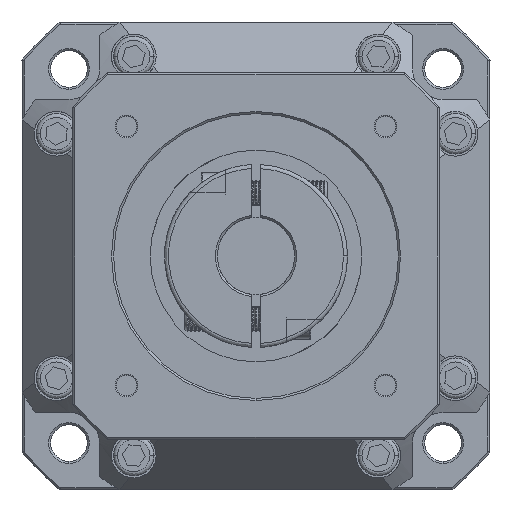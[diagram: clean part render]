
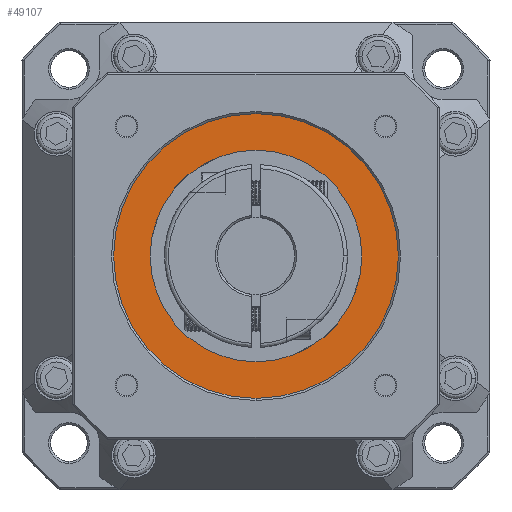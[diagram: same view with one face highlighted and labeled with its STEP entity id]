
A CAD part, front view. The second image highlights one B-rep face of the part: STEP entity #49107.
In plain terms, the highlighted planar face has unit normal (0, 1, 0).
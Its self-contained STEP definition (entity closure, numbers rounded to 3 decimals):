
#422 = CARTESIAN_POINT ( 'NONE',  ( 0., -160.111, 26. ) ) ;
#6554 = VERTEX_POINT ( 'NONE', #96468 ) ;
#7961 = CARTESIAN_POINT ( 'NONE',  ( 0., -160.111, -35. ) ) ;
#10474 = DIRECTION ( 'NONE',  ( 0., 1., 0. ) ) ;
#10925 = CARTESIAN_POINT ( 'NONE',  ( -35.42, -160.111, -35.42 ) ) ;
#11245 = AXIS2_PLACEMENT_3D ( 'NONE', #10925, #66181, #18893 ) ;
#12382 = EDGE_CURVE ( 'NONE', #6554, #26178, #87895, .T. ) ;
#14025 = AXIS2_PLACEMENT_3D ( 'NONE', #74758, #27459, #82711 ) ;
#15853 = CIRCLE ( 'NONE', #38367, 35. ) ;
#16436 = FACE_BOUND ( 'NONE', #90159, .T. ) ;
#18060 = ORIENTED_EDGE ( 'NONE', *, *, #80109, .T. ) ;
#18893 = DIRECTION ( 'NONE',  ( 1., 0., 0. ) ) ;
#19249 = CARTESIAN_POINT ( 'NONE',  ( 0., -160.111, -26. ) ) ;
#20225 = VERTEX_POINT ( 'NONE', #422 ) ;
#23347 = ORIENTED_EDGE ( 'NONE', *, *, #82615, .T. ) ;
#26178 = VERTEX_POINT ( 'NONE', #7961 ) ;
#27459 = DIRECTION ( 'NONE',  ( 0., -1., 0. ) ) ;
#35177 = AXIS2_PLACEMENT_3D ( 'NONE', #40487, #95670, #48386 ) ;
#36891 = EDGE_CURVE ( 'NONE', #26178, #6554, #15853, .T. ) ;
#38367 = AXIS2_PLACEMENT_3D ( 'NONE', #57798, #10474, #65718 ) ;
#39298 = VERTEX_POINT ( 'NONE', #19249 ) ;
#40487 = CARTESIAN_POINT ( 'NONE',  ( 0., -160.111, 0. ) ) ;
#45362 = CARTESIAN_POINT ( 'NONE',  ( 0., -160.111, 0. ) ) ;
#48386 = DIRECTION ( 'NONE',  ( 0., 0., -1. ) ) ;
#49107 = ADVANCED_FACE ( 'NONE', ( #16436, #81957 ), #49954, .F. ) ;
#49954 = PLANE ( 'NONE',  #11245 ) ;
#53269 = DIRECTION ( 'NONE',  ( 0., 0., 1. ) ) ;
#57798 = CARTESIAN_POINT ( 'NONE',  ( 0., -160.111, 0. ) ) ;
#65538 = CIRCLE ( 'NONE', #14025, 26. ) ;
#65718 = DIRECTION ( 'NONE',  ( 0., 0., -1. ) ) ;
#66181 = DIRECTION ( 'NONE',  ( 0., -1., 0. ) ) ;
#67649 = EDGE_LOOP ( 'NONE', ( #85471, #88810 ) ) ;
#74758 = CARTESIAN_POINT ( 'NONE',  ( 0., -160.111, 0. ) ) ;
#75945 = CIRCLE ( 'NONE', #100484, 26. ) ;
#80109 = EDGE_CURVE ( 'NONE', #20225, #39298, #75945, .T. ) ;
#81957 = FACE_OUTER_BOUND ( 'NONE', #67649, .T. ) ;
#82615 = EDGE_CURVE ( 'NONE', #39298, #20225, #65538, .T. ) ;
#82711 = DIRECTION ( 'NONE',  ( 0., 0., 1. ) ) ;
#85471 = ORIENTED_EDGE ( 'NONE', *, *, #36891, .T. ) ;
#87895 = CIRCLE ( 'NONE', #35177, 35. ) ;
#88810 = ORIENTED_EDGE ( 'NONE', *, *, #12382, .T. ) ;
#90159 = EDGE_LOOP ( 'NONE', ( #18060, #23347 ) ) ;
#95670 = DIRECTION ( 'NONE',  ( 0., 1., 0. ) ) ;
#96468 = CARTESIAN_POINT ( 'NONE',  ( 0., -160.111, 35. ) ) ;
#100484 = AXIS2_PLACEMENT_3D ( 'NONE', #45362, #100532, #53269 ) ;
#100532 = DIRECTION ( 'NONE',  ( 0., -1., 0. ) ) ;
